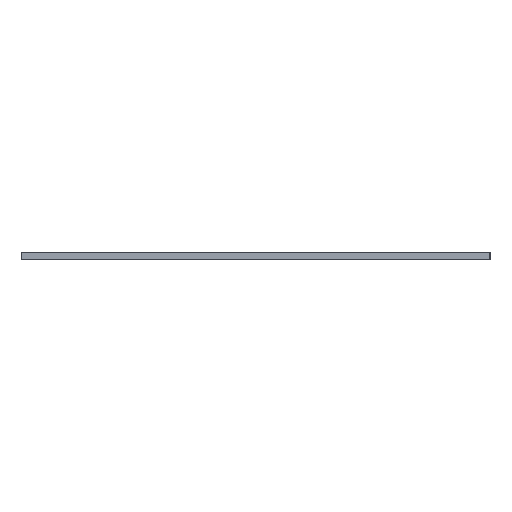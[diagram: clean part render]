
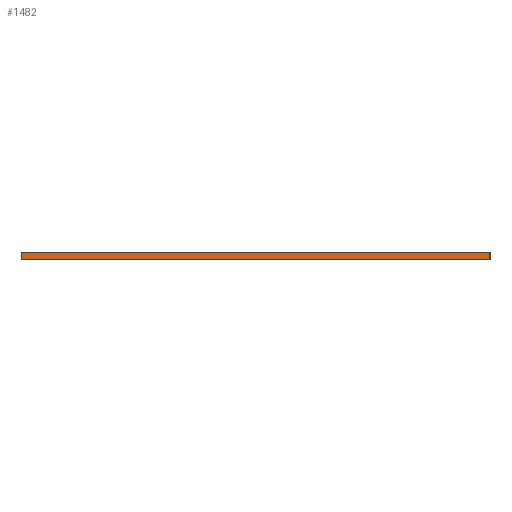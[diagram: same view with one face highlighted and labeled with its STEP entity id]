
A CAD part, left-side view. The second image highlights one B-rep face of the part: STEP entity #1482.
In plain terms, the highlighted planar face has unit normal (-1, 0, 0).
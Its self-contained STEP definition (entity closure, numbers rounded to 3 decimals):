
#24 = CARTESIAN_POINT ( 'NONE',  ( 0., 0., 10. ) ) ;
#43 = VECTOR ( 'NONE', #848, 1000. ) ;
#51 = VERTEX_POINT ( 'NONE', #1498 ) ;
#78 = ORIENTED_EDGE ( 'NONE', *, *, #808, .T. ) ;
#143 = LINE ( 'NONE', #24, #43 ) ;
#156 = DIRECTION ( 'NONE',  ( 0., 1., 0. ) ) ;
#186 = VERTEX_POINT ( 'NONE', #635 ) ;
#239 = CARTESIAN_POINT ( 'NONE',  ( 0., 640., 10. ) ) ;
#275 = LINE ( 'NONE', #872, #904 ) ;
#548 = PLANE ( 'NONE',  #824 ) ;
#552 = DIRECTION ( 'NONE',  ( -1., 0., 0. ) ) ;
#597 = ORIENTED_EDGE ( 'NONE', *, *, #853, .F. ) ;
#615 = ORIENTED_EDGE ( 'NONE', *, *, #1185, .T. ) ;
#628 = CARTESIAN_POINT ( 'NONE',  ( 0., 0., 0. ) ) ;
#635 = CARTESIAN_POINT ( 'NONE',  ( 0., 0., 10. ) ) ;
#646 = VECTOR ( 'NONE', #156, 1000. ) ;
#647 = ORIENTED_EDGE ( 'NONE', *, *, #1200, .F. ) ;
#723 = CARTESIAN_POINT ( 'NONE',  ( 0., 0., 10. ) ) ;
#787 = EDGE_LOOP ( 'NONE', ( #647, #597, #615, #78 ) ) ;
#808 = EDGE_CURVE ( 'NONE', #1316, #51, #275, .T. ) ;
#824 = AXIS2_PLACEMENT_3D ( 'NONE', #1311, #552, #1419 ) ;
#848 = DIRECTION ( 'NONE',  ( 0., 0., -1. ) ) ;
#853 = EDGE_CURVE ( 'NONE', #186, #1351, #143, .T. ) ;
#861 = DIRECTION ( 'NONE',  ( 0., 0., -1. ) ) ;
#872 = CARTESIAN_POINT ( 'NONE',  ( 0., 640., 10. ) ) ;
#878 = DIRECTION ( 'NONE',  ( 0., 1., 0. ) ) ;
#904 = VECTOR ( 'NONE', #861, 1000. ) ;
#985 = VECTOR ( 'NONE', #878, 1000. ) ;
#1037 = FACE_OUTER_BOUND ( 'NONE', #787, .T. ) ;
#1055 = LINE ( 'NONE', #723, #985 ) ;
#1185 = EDGE_CURVE ( 'NONE', #186, #1316, #1055, .T. ) ;
#1200 = EDGE_CURVE ( 'NONE', #1351, #51, #1344, .T. ) ;
#1204 = CARTESIAN_POINT ( 'NONE',  ( 0., 0., 0. ) ) ;
#1311 = CARTESIAN_POINT ( 'NONE',  ( 0., 0., 10. ) ) ;
#1316 = VERTEX_POINT ( 'NONE', #239 ) ;
#1344 = LINE ( 'NONE', #628, #646 ) ;
#1351 = VERTEX_POINT ( 'NONE', #1204 ) ;
#1419 = DIRECTION ( 'NONE',  ( 0., 0., 1. ) ) ;
#1482 = ADVANCED_FACE ( 'NONE', ( #1037 ), #548, .T. ) ;
#1498 = CARTESIAN_POINT ( 'NONE',  ( 0., 640., 0. ) ) ;
